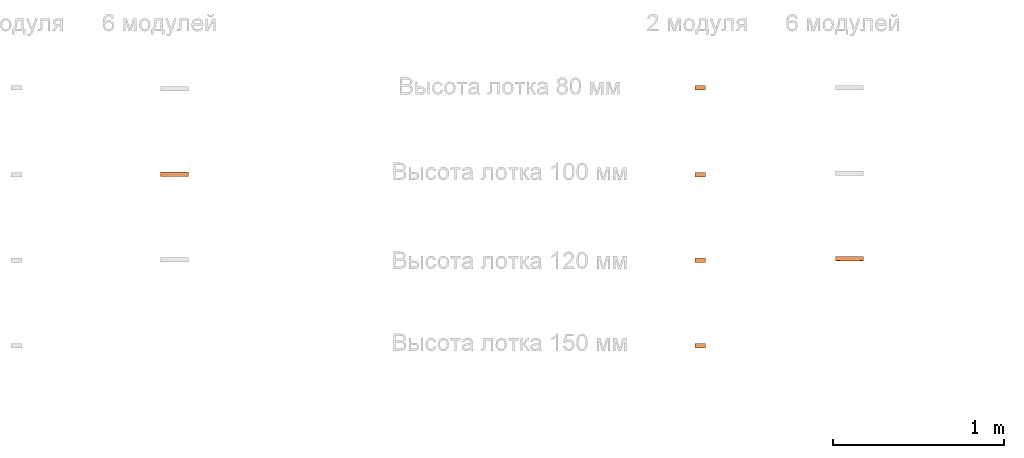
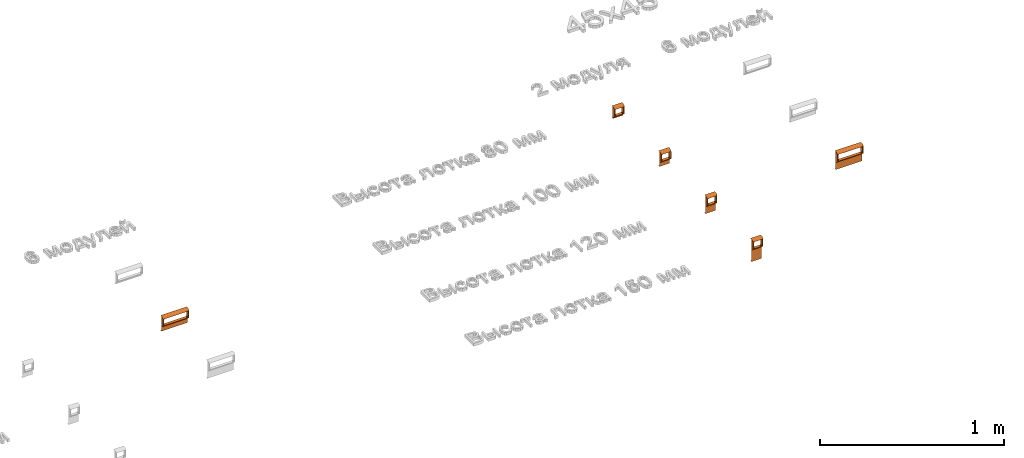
# One storey, part 70 of 71: 6 proxies.
"""IFC2X3 building model written with IfcOpenShell, lengths in millimetres."""

from ifc_helpers import new_model, entity, si_unit, converted_unit, derived_unit, direction, frame, origin, place, context, subcontext, project, spatial, faceted_brep, source, transform, mapped, material, type_object, type_shapes, element, save


model = new_model("IFC2X3")

# Units and contexts
model_context = context("Model", 3, precision=0.01, world=origin(), true_north=direction((6.12303176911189e-17, 1.0)))
body_context = subcontext(model_context, "Body", "Model", "MODEL_VIEW")
ifc_project = project(units=[si_unit("LENGTHUNIT", "METRE", prefix="MILLI"), si_unit("AREAUNIT", "SQUARE_METRE"), si_unit("VOLUMEUNIT", "CUBIC_METRE"), converted_unit("PLANEANGLEUNIT", "DEGREE", entity("IfcRatioMeasure", 0.0174532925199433), si_unit("PLANEANGLEUNIT", "RADIAN"), dimensions=[0, 0, 0, 0, 0, 0, 0]), si_unit("MASSUNIT", "GRAM", prefix="KILO"), derived_unit("MASSDENSITYUNIT", [(si_unit("MASSUNIT", "GRAM", prefix="KILO"), 1), (si_unit("LENGTHUNIT", "METRE"), -3)]), si_unit("TIMEUNIT", "SECOND"), si_unit("FREQUENCYUNIT", "HERTZ"), si_unit("THERMODYNAMICTEMPERATUREUNIT", "DEGREE_CELSIUS"), derived_unit("THERMALTRANSMITTANCEUNIT", [(si_unit("MASSUNIT", "GRAM", prefix="KILO"), 1), (si_unit("THERMODYNAMICTEMPERATUREUNIT", "KELVIN"), -1), (si_unit("TIMEUNIT", "SECOND"), -3)]), derived_unit("VOLUMETRICFLOWRATEUNIT", [(si_unit("LENGTHUNIT", "METRE"), 3), (si_unit("TIMEUNIT", "SECOND"), -1)]), si_unit("ELECTRICCURRENTUNIT", "AMPERE"), si_unit("ELECTRICVOLTAGEUNIT", "VOLT"), si_unit("POWERUNIT", "WATT"), si_unit("FORCEUNIT", "NEWTON", prefix="KILO"), si_unit("ILLUMINANCEUNIT", "LUX"), si_unit("LUMINOUSFLUXUNIT", "LUMEN"), si_unit("LUMINOUSINTENSITYUNIT", "CANDELA"), derived_unit("USERDEFINED", [(si_unit("MASSUNIT", "GRAM", prefix="KILO"), -1), (si_unit("LENGTHUNIT", "METRE"), -2), (si_unit("TIMEUNIT", "SECOND"), 3), (si_unit("LUMINOUSFLUXUNIT", "LUMEN"), 1)]), derived_unit("LINEARVELOCITYUNIT", [(si_unit("LENGTHUNIT", "METRE"), 1), (si_unit("TIMEUNIT", "SECOND"), -1)]), si_unit("PRESSUREUNIT", "PASCAL"), derived_unit("USERDEFINED", [(si_unit("LENGTHUNIT", "METRE"), -2), (si_unit("MASSUNIT", "GRAM", prefix="KILO"), 1), (si_unit("TIMEUNIT", "SECOND"), -2)])], contexts=[model_context])

# Site, building, storey
site_placement = place(None, origin())
site = spatial("IfcSite", under=ifc_project, at=site_placement, Name="Default", CompositionType="ELEMENT")
building_placement = place(site_placement, origin())
building = spatial("IfcBuilding", under=site, at=building_placement, Name="Наименование здания", CompositionType="ELEMENT")
storey_placement = place(building_placement, origin())
storey = spatial("IfcBuildingStorey", under=building, at=storey_placement, Name="Этаж 01", CompositionType="ELEMENT", Elevation=0.0)

# Proxies
ifc_material = material(Name="DKC_Пластик_Белый")
building_element_proxy_type_1 = type_object("IfcBuildingElementProxyType", Name="Серия \"Brava\"", PredefinedType="NOTDEFINED", material=ifc_material)
shared_shape_1 = source(origin(), body_context, "Body", "Brep", [
    faceted_brep([(-73.8192492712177, -18.0, 36.8192492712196), (-70.9686648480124, -18.0, 38.0), (-82.0, -18.0, 38.0), (-82.0, -18.0, -5.0), (-70.9686648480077, -18.0, -5.0), (-73.819249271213, -18.0, -3.81924927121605), (-75.0, -18.0, -0.968664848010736), (-75.0, -18.0, 33.9686648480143), (82.0, -18.0, 38.0), (70.96866484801, -18.0, 38.0), (73.8192492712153, -18.0, 36.8192492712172), (75.0, -18.0, 33.9686648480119), (75.0, -18.0, -0.968664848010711), (73.8192492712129, -18.0, -3.819249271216), (70.9686648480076, -18.0, -5.0), (82.0, -18.0, -5.0), (82.0, -1.0, -50.0), (82.0, 8.40000000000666, -50.0), (82.0, 8.40000000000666, -49.0), (82.0, 0.0, -49.0), (82.0, 0.0, 49.0), (82.0, 8.40000000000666, 49.0), (82.0, 8.40000000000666, 50.0), (82.0, -1.0, 50.0), (82.0, -5.39126188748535, 49.4574348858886), (82.0, -9.51840787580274, 47.8623725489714), (82.0, -13.133207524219, 45.3107492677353), (82.0, -16.018245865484, 41.9560344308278), (82.0, -16.0182458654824, -8.9560344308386), (82.0, -13.133207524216, -12.3107492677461), (82.0, -9.51840787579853, -14.8623725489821), (82.0, -5.39126188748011, -16.4574348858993), (82.0, -1.0, -17.0), (-82.0, -1.0, 50.0), (-82.0, 8.40000000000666, 50.0), (-82.0, 8.40000000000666, 49.0), (-82.0, 0.0, 49.0), (-82.0, 0.0, -49.0), (-82.0, 8.40000000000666, -49.0), (-82.0, 8.40000000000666, -50.0), (-82.0, -1.0, -50.0), (-82.0, -1.0, -17.0), (-82.0, -5.39126188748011, -16.4574348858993), (-82.0, -9.51840787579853, -14.8623725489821), (-82.0, -13.133207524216, -12.3107492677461), (-82.0, -16.0182458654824, -8.9560344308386), (-82.0, -16.018245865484, 41.9560344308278), (-82.0, -13.133207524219, 45.3107492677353), (-82.0, -9.51840787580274, 47.8623725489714), (-82.0, -5.39126188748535, 49.4574348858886), (-7.84410285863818, -1.0, 50.0), (7.84408283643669, -1.0, -17.0), (75.0, 0.0, -0.968664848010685), (73.8192492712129, 0.0, -3.819249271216), (70.9686648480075, 0.0, -5.0), (-70.9686648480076, 0.0, -5.0), (-73.819249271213, 0.0, -3.81924927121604), (-75.0, 0.0, -0.968664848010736), (-75.0, 0.0, 33.9686648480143), (-73.8192492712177, 0.0, 36.8192492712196), (-70.9686648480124, 0.0, 38.0), (75.0, 0.0, 33.9686648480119), (73.8192492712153, 0.0, 36.8192492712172), (70.96866484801, 0.0, 38.0), (-1.05664262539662e-07, -7.50391799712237, 48.7869038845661), (10.4878486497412, -16.6040193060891, 41.0146194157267), (0.0, -18.0, 38.0), (-8.03406364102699e-08, -11.4043260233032, 46.6977951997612), (6.74915888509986e-08, -14.6789576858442, 43.7221699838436), (-10.70410463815, -4.32349317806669, 49.6912442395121), (-10.4878486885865, -16.6040193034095, -8.01461942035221), (0.0, -18.0, -5.0), (-2.78578905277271e-08, -14.6789576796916, -10.7221699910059), (2.4966060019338e-08, -11.4043260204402, -13.6977952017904), (10.7041051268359, -4.32349317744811, -16.6912442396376), (-2.08968314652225e-08, -7.50391799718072, -15.7869038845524)], [[[0, 1, 2, 3, 4, 5, 6, 7]], [[8, 9, 10, 11, 12, 13, 14, 15]], [[16, 17, 18, 19, 20, 21, 22, 23, 24, 25, 26, 27, 8, 15, 28, 29, 30, 31, 32]], [[33, 34, 35, 36, 37, 38, 39, 40, 41, 42, 43, 44, 45, 3, 2, 46, 47, 48, 49]], [[22, 21, 35, 34]], [[18, 17, 39, 38]], [[23, 22, 34, 33, 50]], [[16, 32, 51, 41, 40]], [[17, 16, 40, 39]], [[19, 18, 38, 37]], [[19, 52, 20]], [[52, 19, 53]], [[54, 53, 19]], [[19, 37, 54]], [[55, 54, 37]], [[56, 55, 37]], [[37, 57, 56]], [[57, 37, 36]], [[36, 58, 57]], [[58, 36, 59]], [[60, 59, 36]], [[60, 36, 20]], [[61, 20, 52]], [[20, 61, 62]], [[62, 63, 20]], [[20, 63, 60]], [[21, 20, 36, 35]], [[64, 49, 48]], [[9, 65, 1, 66]], [[67, 48, 47]], [[67, 47, 68]], [[69, 49, 64]], [[23, 69, 24]], [[68, 26, 67]], [[25, 24, 64]], [[64, 67, 25]], [[26, 25, 67]], [[46, 2, 1]], [[9, 8, 27]], [[33, 69, 23, 50]], [[64, 48, 67]], [[27, 65, 9]], [[26, 68, 27]], [[68, 65, 27]], [[65, 46, 1]], [[24, 69, 64]], [[68, 47, 46]], [[46, 65, 68]], [[33, 49, 69]], [[4, 3, 45]], [[28, 15, 14]], [[4, 70, 14, 71]], [[72, 45, 44]], [[72, 44, 73]], [[70, 45, 72]], [[74, 42, 41]], [[45, 70, 4]], [[29, 28, 72]], [[75, 43, 42]], [[32, 74, 41, 51]], [[42, 74, 75]], [[74, 32, 31]], [[29, 73, 30]], [[75, 73, 43]], [[75, 31, 30]], [[74, 31, 75]], [[73, 29, 72]], [[70, 28, 14]], [[73, 44, 43]], [[28, 70, 72]], [[73, 75, 30]], [[63, 9, 66, 1, 60]], [[0, 59, 60, 1]], [[7, 58, 59, 0]], [[58, 7, 6, 57]], [[5, 56, 57, 6]], [[4, 55, 56, 5]], [[55, 4, 71, 14, 54]], [[13, 53, 54, 14]], [[12, 52, 53, 13]], [[61, 52, 12, 11]], [[10, 62, 61, 11]], [[9, 63, 62, 10]]]),
])
type_shapes(building_element_proxy_type_1, [shared_shape_1])
proxy_1_placement = place(storey_placement, frame((8596.33711785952, -12429.6171991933, 0.0)))
element("IfcBuildingElementProxy", 1, at=proxy_1_placement, inside=storey, type_object=building_element_proxy_type_1, material=ifc_material, Name="КНС_РамкаСуппорт_ILC_DKC:Серия \"Brava\"", ObjectType="Серия \"Brava\"", context=body_context, shape_type="MappedRepresentation", body=[
    mapped(shared_shape_1, transform((0.0, 0.0, 0.0), scale=1.0)),
])
building_element_proxy_type_2 = type_object("IfcBuildingElementProxyType", Name="45х45", PredefinedType="NOTDEFINED", material=ifc_material)
shared_shape_2 = source(origin(), body_context, "Body", "Brep", [
    faceted_brep([(-23.8192492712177, -18.0, 36.8192492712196), (-20.9686648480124, -18.0, 38.0), (-32.0, -18.0, 38.0), (-32.0, -18.0, -7.0), (-20.9686648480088, -18.0, -7.0), (-23.8192492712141, -18.0, -5.81924927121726), (-25.0, -18.0, -2.96866484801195), (-25.0, -18.0, 33.9686648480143), (32.0, -18.0, 38.0), (20.96866484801, -18.0, 38.0), (23.8192492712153, -18.0, 36.8192492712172), (25.0, -18.0, 33.9686648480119), (25.0, -18.0, -2.96866484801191), (23.8192492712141, -18.0, -5.8192492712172), (20.9686648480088, -18.0, -7.0), (32.0, -18.0, -7.0), (32.0, -1.0, -50.0), (32.0, 8.40000000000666, -50.0), (32.0, 8.40000000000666, -49.0), (32.0, 0.0, -49.0), (32.0, 0.0, 49.0), (32.0, 8.40000000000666, 49.0), (32.0, 8.40000000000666, 50.0), (32.0, -1.0, 50.0), (32.0, -5.39126188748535, 49.4574348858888), (32.0, -9.51840787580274, 47.8623725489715), (32.0, -13.133207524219, 45.3107492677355), (32.0, -16.018245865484, 41.956034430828), (32.0, -16.0182458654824, -10.9560344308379), (32.0, -13.133207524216, -14.3107492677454), (32.0, -9.51840787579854, -16.8623725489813), (32.0, -5.39126188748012, -18.4574348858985), (32.0, -1.0, -19.0), (-32.0, -1.0, 50.0), (-32.0, 8.40000000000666, 50.0), (-32.0, 8.40000000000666, 49.0), (-32.0, 0.0, 49.0), (-32.0, 0.0, -49.0), (-32.0, 8.40000000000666, -49.0), (-32.0, 8.40000000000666, -50.0), (-32.0, -1.0, -50.0), (-32.0, -1.0, -19.0), (-32.0, -5.39126188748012, -18.4574348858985), (-32.0, -9.51840787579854, -16.8623725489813), (-32.0, -13.133207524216, -14.3107492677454), (-32.0, -16.0182458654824, -10.9560344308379), (-32.0, -16.018245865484, 41.956034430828), (-32.0, -13.133207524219, 45.3107492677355), (-32.0, -9.51840787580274, 47.8623725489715), (-32.0, -5.39126188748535, 49.4574348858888), (25.0, 0.0, -2.96866484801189), (23.819249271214, 0.0, -5.81924927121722), (20.9686648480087, 0.0, -7.0), (-20.9686648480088, 0.0, -7.0), (-23.8192492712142, 0.0, -5.81924927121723), (-25.0, 0.0, -2.96866484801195), (-25.0, 0.0, 33.9686648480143), (-23.8192492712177, 0.0, 36.8192492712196), (-20.9686648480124, 0.0, 38.0), (25.0, 0.0, 33.968664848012), (23.8192492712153, 0.0, 36.8192492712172), (20.96866484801, 0.0, 38.0)], [[[0, 1, 2, 3, 4, 5, 6, 7]], [[8, 9, 10, 11, 12, 13, 14, 15]], [[16, 17, 18, 19, 20, 21, 22, 23, 24, 25, 26, 27, 8, 15, 28, 29, 30, 31, 32]], [[33, 34, 35, 36, 37, 38, 39, 40, 41, 42, 43, 44, 45, 3, 2, 46, 47, 48, 49]], [[22, 21, 35, 34]], [[18, 17, 39, 38]], [[23, 22, 34, 33]], [[16, 32, 41, 40]], [[17, 16, 40, 39]], [[19, 18, 38, 37]], [[19, 50, 20]], [[50, 19, 51]], [[52, 51, 19]], [[19, 53, 52]], [[53, 19, 37]], [[54, 53, 37]], [[37, 55, 54]], [[55, 37, 36]], [[36, 56, 55]], [[56, 36, 57]], [[58, 57, 36]], [[58, 36, 20]], [[59, 20, 50]], [[20, 59, 60]], [[60, 61, 20]], [[20, 61, 58]], [[21, 20, 36, 35]], [[24, 49, 48, 25]], [[25, 48, 47, 26]], [[33, 49, 24, 23]], [[46, 2, 1, 9, 8, 27]], [[26, 47, 46, 27]], [[4, 3, 45, 28, 15, 14]], [[28, 45, 44, 29]], [[30, 43, 42, 31]], [[31, 42, 41, 32]], [[29, 44, 43, 30]], [[58, 61, 9, 1]], [[0, 57, 58, 1]], [[7, 56, 57, 0]], [[55, 56, 7, 6]], [[5, 54, 55, 6]], [[4, 53, 54, 5]], [[53, 4, 14, 52]], [[13, 51, 52, 14]], [[12, 50, 51, 13]], [[50, 12, 11, 59]], [[10, 60, 59, 11]], [[9, 61, 60, 10]]]),
])
type_shapes(building_element_proxy_type_2, [shared_shape_2])
proxy_2_placement = place(storey_placement, frame((11672.4014296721, -12431.8358834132, 0.0)))
element("IfcBuildingElementProxy", 2, at=proxy_2_placement, inside=storey, type_object=building_element_proxy_type_2, material=ifc_material, Name="КНС_РамкаСуппорт_ILC_DKC:45х45", ObjectType="45х45", context=body_context, shape_type="MappedRepresentation", body=[
    mapped(shared_shape_2, transform((0.0, 0.0, 0.0), scale=1.0)),
])
building_element_proxy_type_3 = type_object("IfcBuildingElementProxyType", Name="45х45", PredefinedType="NOTDEFINED", material=ifc_material)
shared_shape_3 = source(origin(), body_context, "Body", "Brep", [
    faceted_brep([(-23.8192492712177, -18.0, 46.8192492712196), (-20.9686648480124, -18.0, 48.0), (-32.0, -18.0, 48.0), (-32.0, -18.0, 3.0), (-20.9686648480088, -18.0, 3.0), (-23.8192492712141, -18.0, 4.18075072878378), (-25.0, -18.0, 7.03133515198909), (-25.0, -18.0, 43.9686648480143), (32.0, -18.0, 48.0), (20.96866484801, -18.0, 48.0), (23.8192492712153, -18.0, 46.8192492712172), (25.0, -18.0, 43.9686648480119), (25.0, -18.0, 7.03133515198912), (23.8192492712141, -18.0, 4.18075072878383), (20.9686648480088, -18.0, 3.0), (32.0, -18.0, 3.0), (32.0, -1.0, -60.0), (32.0, 8.40000000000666, -60.0), (32.0, 8.40000000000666, -59.0), (32.0, 0.0, -59.0), (32.0, 0.0, 59.0), (32.0, 8.40000000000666, 59.0), (32.0, 8.40000000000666, 60.0), (32.0, -1.0, 60.0), (32.0, -5.39126188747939, 59.4574348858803), (32.0, -9.51840787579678, 57.862372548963), (32.0, -13.1332075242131, 55.310749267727), (32.0, -16.018245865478, 51.9560344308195), (32.0, -16.0182458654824, -0.956034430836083), (32.0, -13.133207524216, -4.3107492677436), (32.0, -9.51840787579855, -6.86237254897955), (32.0, -5.39126188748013, -8.45743488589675), (32.0, -1.0, -9.0), (-32.0, -1.0, 60.0), (-32.0, 8.40000000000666, 60.0), (-32.0, 8.40000000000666, 59.0), (-32.0, 0.0, 59.0), (-32.0, 0.0, -59.0), (-32.0, 8.40000000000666, -59.0), (-32.0, 8.40000000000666, -60.0), (-32.0, -1.0, -60.0), (-32.0, -1.0, -9.0), (-32.0, -5.39126188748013, -8.45743488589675), (-32.0, -9.51840787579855, -6.86237254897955), (-32.0, -13.133207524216, -4.3107492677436), (-32.0, -16.0182458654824, -0.956034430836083), (-32.0, -16.018245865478, 51.9560344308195), (-32.0, -13.1332075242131, 55.310749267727), (-32.0, -9.51840787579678, 57.862372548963), (-32.0, -5.39126188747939, 59.4574348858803), (25.0, 0.0, 7.03133515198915), (23.819249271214, 0.0, 4.18075072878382), (20.9686648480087, 0.0, 3.0), (-20.9686648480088, 0.0, 3.0), (-23.8192492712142, 0.0, 4.1807507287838), (-25.0, 0.0, 7.03133515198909), (-25.0, 0.0, 43.9686648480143), (-23.8192492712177, 0.0, 46.8192492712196), (-20.9686648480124, 0.0, 48.0), (25.0, 0.0, 43.9686648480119), (23.8192492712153, 0.0, 46.8192492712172), (20.96866484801, 0.0, 48.0)], [[[0, 1, 2, 3, 4, 5, 6, 7]], [[8, 9, 10, 11, 12, 13, 14, 15]], [[16, 17, 18, 19, 20, 21, 22, 23, 24, 25, 26, 27, 8, 15, 28, 29, 30, 31, 32]], [[33, 34, 35, 36, 37, 38, 39, 40, 41, 42, 43, 44, 45, 3, 2, 46, 47, 48, 49]], [[22, 21, 35, 34]], [[18, 17, 39, 38]], [[23, 22, 34, 33]], [[16, 32, 41, 40]], [[17, 16, 40, 39]], [[19, 18, 38, 37]], [[19, 50, 20]], [[50, 19, 51]], [[52, 51, 19]], [[19, 37, 52]], [[53, 52, 37]], [[54, 53, 37]], [[37, 55, 54]], [[55, 37, 36]], [[36, 56, 55]], [[56, 36, 57]], [[58, 57, 36]], [[58, 36, 20]], [[59, 20, 50]], [[20, 59, 60]], [[60, 61, 20]], [[20, 61, 58]], [[21, 20, 36, 35]], [[24, 49, 48, 25]], [[25, 48, 47, 26]], [[33, 49, 24, 23]], [[46, 2, 1, 9, 8, 27]], [[26, 47, 46, 27]], [[4, 3, 45, 28, 15, 14]], [[28, 45, 44, 29]], [[30, 43, 42, 31]], [[31, 42, 41, 32]], [[29, 44, 43, 30]], [[58, 61, 9, 1]], [[0, 57, 58, 1]], [[7, 56, 57, 0]], [[56, 7, 6, 55]], [[5, 54, 55, 6]], [[4, 53, 54, 5]], [[53, 4, 14, 52]], [[13, 51, 52, 14]], [[12, 50, 51, 13]], [[59, 50, 12, 11]], [[10, 60, 59, 11]], [[9, 61, 60, 10]]]),
])
type_shapes(building_element_proxy_type_3, [shared_shape_3])
proxy_3_placement = place(storey_placement, frame((11672.4014296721, -12931.8358834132, 0.0)))
element("IfcBuildingElementProxy", 3, at=proxy_3_placement, inside=storey, type_object=building_element_proxy_type_3, material=ifc_material, Name="КНС_РамкаСуппорт_ILC_DKC:45х45", ObjectType="45х45", context=body_context, shape_type="MappedRepresentation", body=[
    mapped(shared_shape_3, transform((0.0, 0.0, 0.0), scale=1.0)),
])
building_element_proxy_type_4 = type_object("IfcBuildingElementProxyType", Name="45х45", PredefinedType="NOTDEFINED", material=ifc_material)
shared_shape_4 = source(origin(), body_context, "Body", "Brep", [
    faceted_brep([(-23.8192492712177, -18.0, 61.8192492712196), (-20.9686648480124, -18.0, 63.0), (-32.0, -18.0, 63.0), (-32.0, -18.0, 18.0), (-20.9686648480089, -18.0, 18.0), (-23.8192492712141, -18.0, 19.1807507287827), (-25.0, -18.0, 22.031335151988), (-25.0, -18.0, 58.9686648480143), (32.0, -18.0, 63.0), (20.96866484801, -18.0, 63.0), (23.8192492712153, -18.0, 61.8192492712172), (25.0, -18.0, 58.9686648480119), (25.0, -18.0, 22.0313351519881), (23.8192492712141, -18.0, 19.1807507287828), (20.9686648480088, -18.0, 18.0), (32.0, -18.0, 18.0), (32.0, -1.0, -75.0), (32.0, 8.40000000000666, -75.0), (32.0, 8.40000000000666, -74.0), (32.0, 0.0, -74.0), (32.0, 0.0, 74.0), (32.0, 8.40000000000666, 74.0), (32.0, 8.40000000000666, 75.0), (32.0, -1.0, 75.0), (32.0, -5.39126188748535, 74.4574348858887), (32.0, -9.51840787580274, 72.8623725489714), (32.0, -13.133207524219, 70.3107492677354), (32.0, -16.018245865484, 66.9560344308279), (32.0, -16.0182458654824, 14.0439655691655), (32.0, -13.133207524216, 10.689250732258), (32.0, -9.51840787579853, 8.13762745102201), (32.0, -5.39126188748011, 6.54256511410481), (32.0, -1.0, 6.0), (-32.0, -1.0, 75.0), (-32.0, 8.40000000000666, 75.0), (-32.0, 8.40000000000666, 74.0), (-32.0, 0.0, 74.0), (-32.0, 0.0, -74.0), (-32.0, 8.40000000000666, -74.0), (-32.0, 8.40000000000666, -75.0), (-32.0, -1.0, -75.0), (-32.0, -1.0, 6.0), (-32.0, -5.39126188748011, 6.54256511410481), (-32.0, -9.51840787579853, 8.13762745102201), (-32.0, -13.133207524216, 10.689250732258), (-32.0, -16.0182458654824, 14.0439655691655), (-32.0, -16.018245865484, 66.9560344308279), (-32.0, -13.133207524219, 70.3107492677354), (-32.0, -9.51840787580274, 72.8623725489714), (-32.0, -5.39126188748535, 74.4574348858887), (25.0, 0.0, 22.0313351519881), (23.819249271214, 0.0, 19.1807507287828), (20.9686648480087, 0.0, 18.0), (-20.9686648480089, 0.0, 18.0), (-23.8192492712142, 0.0, 19.1807507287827), (-25.0, 0.0, 22.031335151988), (-25.0, 0.0, 58.9686648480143), (-23.8192492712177, 0.0, 61.8192492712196), (-20.9686648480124, 0.0, 63.0), (25.0, 0.0, 58.9686648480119), (23.8192492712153, 0.0, 61.8192492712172), (20.96866484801, 0.0, 63.0)], [[[0, 1, 2, 3, 4, 5, 6, 7]], [[8, 9, 10, 11, 12, 13, 14, 15]], [[16, 17, 18, 19, 20, 21, 22, 23, 24, 25, 26, 27, 8, 15, 28, 29, 30, 31, 32]], [[33, 34, 35, 36, 37, 38, 39, 40, 41, 42, 43, 44, 45, 3, 2, 46, 47, 48, 49]], [[22, 21, 35, 34]], [[18, 17, 39, 38]], [[23, 22, 34, 33]], [[16, 32, 41, 40]], [[17, 16, 40, 39]], [[19, 18, 38, 37]], [[19, 50, 20]], [[50, 19, 51]], [[52, 51, 19]], [[19, 37, 52]], [[53, 52, 37]], [[54, 53, 37]], [[37, 55, 54]], [[55, 37, 36]], [[36, 56, 55]], [[56, 36, 57]], [[58, 57, 36]], [[58, 36, 20]], [[59, 20, 50]], [[20, 59, 60]], [[60, 61, 20]], [[20, 61, 58]], [[21, 20, 36, 35]], [[24, 49, 48, 25]], [[25, 48, 47, 26]], [[33, 49, 24, 23]], [[46, 2, 1, 9, 8, 27]], [[26, 47, 46, 27]], [[4, 3, 45, 28, 15, 14]], [[28, 45, 44, 29]], [[30, 43, 42, 31]], [[31, 42, 41, 32]], [[29, 44, 43, 30]], [[58, 61, 9, 1]], [[0, 57, 58, 1]], [[7, 56, 57, 0]], [[55, 56, 7, 6]], [[5, 54, 55, 6]], [[4, 53, 54, 5]], [[53, 4, 14, 52]], [[13, 51, 52, 14]], [[12, 50, 51, 13]], [[59, 50, 12, 11]], [[10, 60, 59, 11]], [[9, 61, 60, 10]]]),
])
type_shapes(building_element_proxy_type_4, [shared_shape_4])
proxy_4_placement = place(storey_placement, frame((11672.4014296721, -13431.8358834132, 0.0)))
element("IfcBuildingElementProxy", 4, at=proxy_4_placement, inside=storey, type_object=building_element_proxy_type_4, material=ifc_material, Name="КНС_РамкаСуппорт_ILC_DKC:45х45", ObjectType="45х45", context=body_context, shape_type="MappedRepresentation", body=[
    mapped(shared_shape_4, transform((0.0, 0.0, 0.0), scale=1.0)),
])
building_element_proxy_type_5 = type_object("IfcBuildingElementProxyType", Name="45х45", PredefinedType="NOTDEFINED", material=ifc_material)
shared_shape_5 = source(origin(), body_context, "Body", "Brep", [
    faceted_brep([(-73.8192492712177, -18.0, 46.8192492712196), (-70.9686648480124, -18.0, 48.0), (-82.0, -18.0, 48.0), (-82.0, -18.0, 3.0), (-70.9686648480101, -18.0, 3.0), (-73.8192492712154, -18.0, 4.18075072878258), (-75.0, -18.0, 7.03133515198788), (-75.0, -18.0, 43.9686648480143), (82.0, -18.0, 48.0), (70.9686648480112, -18.0, 48.0), (73.8192492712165, -18.0, 46.8192492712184), (75.0, -18.0, 43.9686648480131), (75.0, -18.0, 7.03133515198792), (73.8192492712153, -18.0, 4.18075072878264), (70.96866484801, -18.0, 3.0), (82.0, -18.0, 3.0), (82.0, -1.0, -60.0), (82.0, 8.40000000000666, -60.0), (82.0, 8.40000000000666, -59.0), (82.0, 0.0, -59.0), (82.0, 0.0, 59.0), (82.0, 8.40000000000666, 59.0), (82.0, 8.40000000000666, 60.0), (82.0, -1.0, 60.0), (82.0, -5.39126188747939, 59.4574348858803), (82.0, -9.51840787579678, 57.862372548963), (82.0, -13.1332075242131, 55.310749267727), (82.0, -16.018245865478, 51.9560344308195), (82.0, -16.0182458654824, -0.956034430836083), (82.0, -13.133207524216, -4.3107492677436), (82.0, -9.51840787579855, -6.86237254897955), (82.0, -5.39126188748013, -8.45743488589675), (82.0, -1.0, -9.0), (-82.0, -1.0, 60.0), (-82.0, 8.40000000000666, 60.0), (-82.0, 8.40000000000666, 59.0), (-82.0, 0.0, 59.0), (-82.0, 0.0, -59.0), (-82.0, 8.40000000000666, -59.0), (-82.0, 8.40000000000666, -60.0), (-82.0, -1.0, -60.0), (-82.0, -1.0, -9.0), (-82.0, -5.39126188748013, -8.45743488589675), (-82.0, -9.51840787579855, -6.86237254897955), (-82.0, -13.133207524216, -4.3107492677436), (-82.0, -16.0182458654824, -0.956034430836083), (-82.0, -16.018245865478, 51.9560344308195), (-82.0, -13.1332075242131, 55.310749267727), (-82.0, -9.51840787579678, 57.862372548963), (-82.0, -5.39126188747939, 59.4574348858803), (-7.84403318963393, -1.0, 60.0), (7.84408283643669, -1.0, -9.0), (75.0, 0.0, 7.03133515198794), (73.8192492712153, 0.0, 4.18075072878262), (70.9686648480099, 0.0, 3.0), (-70.96866484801, 0.0, 3.0), (-73.8192492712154, 0.0, 4.18075072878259), (-75.0, 0.0, 7.03133515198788), (-75.0, 0.0, 43.9686648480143), (-73.8192492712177, 0.0, 46.8192492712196), (-70.9686648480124, 0.0, 48.0), (75.0, 0.0, 43.9686648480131), (73.8192492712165, 0.0, 46.8192492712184), (70.9686648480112, 0.0, 48.0), (-1.05664262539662e-07, -7.50391799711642, 58.7869038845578), (10.4878486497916, -16.6040193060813, 51.0146194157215), (0.0, -18.0, 48.0), (-8.03406533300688e-08, -11.4043260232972, 56.6977951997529), (6.74916057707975e-08, -14.6789576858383, 53.7221699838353), (-10.7041046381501, -4.32349317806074, 59.6912442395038), (-10.487848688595, -16.6040193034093, -0.0146194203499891), (0.0, -18.0, 3.0), (-2.7857907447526e-08, -14.6789576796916, -2.72216999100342), (2.4966060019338e-08, -11.4043260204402, -5.69779520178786), (10.7041051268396, -4.32349317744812, -8.69124423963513), (-2.08968483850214e-08, -7.50391799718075, -7.78690388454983)], [[[0, 1, 2, 3, 4, 5, 6, 7]], [[8, 9, 10, 11, 12, 13, 14, 15]], [[16, 17, 18, 19, 20, 21, 22, 23, 24, 25, 26, 27, 8, 15, 28, 29, 30, 31, 32]], [[33, 34, 35, 36, 37, 38, 39, 40, 41, 42, 43, 44, 45, 3, 2, 46, 47, 48, 49]], [[22, 21, 35, 34]], [[18, 17, 39, 38]], [[22, 34, 33, 50, 23]], [[16, 32, 51, 41, 40]], [[17, 16, 40, 39]], [[19, 18, 38, 37]], [[19, 52, 20]], [[52, 19, 53]], [[54, 53, 19]], [[19, 37, 54]], [[55, 54, 37]], [[56, 55, 37]], [[37, 57, 56]], [[57, 37, 36]], [[36, 58, 57]], [[58, 36, 59]], [[60, 59, 36]], [[60, 36, 20]], [[61, 20, 52]], [[20, 61, 62]], [[62, 63, 20]], [[20, 63, 60]], [[21, 20, 36, 35]], [[64, 49, 48]], [[9, 65, 1, 66]], [[67, 48, 47]], [[67, 47, 68]], [[69, 49, 64]], [[23, 69, 24]], [[68, 26, 67]], [[25, 24, 64]], [[64, 67, 25]], [[26, 25, 67]], [[46, 2, 1]], [[9, 8, 27]], [[33, 69, 23, 50]], [[64, 48, 67]], [[27, 65, 9]], [[26, 68, 27]], [[68, 65, 27]], [[65, 46, 1]], [[24, 69, 64]], [[68, 47, 46]], [[46, 65, 68]], [[33, 49, 69]], [[4, 3, 45]], [[28, 15, 14]], [[4, 70, 14, 71]], [[72, 45, 44]], [[72, 44, 73]], [[70, 45, 72]], [[74, 42, 41]], [[45, 70, 4]], [[29, 28, 72]], [[75, 43, 42]], [[32, 74, 41, 51]], [[42, 74, 75]], [[74, 32, 31]], [[29, 73, 30]], [[75, 73, 43]], [[75, 31, 30]], [[74, 31, 75]], [[73, 29, 72]], [[70, 28, 14]], [[73, 44, 43]], [[28, 70, 72]], [[73, 75, 30]], [[60, 63, 9, 66, 1]], [[0, 59, 60, 1]], [[7, 58, 59, 0]], [[58, 7, 6, 57]], [[5, 56, 57, 6]], [[4, 55, 56, 5]], [[55, 4, 71, 14, 54]], [[13, 53, 54, 14]], [[12, 52, 53, 13]], [[52, 12, 11, 61]], [[10, 62, 61, 11]], [[9, 63, 62, 10]]]),
])
type_shapes(building_element_proxy_type_5, [shared_shape_5])
proxy_5_placement = place(storey_placement, frame((12545.2713454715, -12923.4358834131, 0.0)))
element("IfcBuildingElementProxy", 5, at=proxy_5_placement, inside=storey, type_object=building_element_proxy_type_5, material=ifc_material, Name="КНС_РамкаСуппорт_ILC_DKC:45х45", ObjectType="45х45", context=body_context, shape_type="MappedRepresentation", body=[
    mapped(shared_shape_5, transform((0.0, 0.0, 0.0), scale=1.0)),
])
building_element_proxy_type_6 = type_object("IfcBuildingElementProxyType", Name="45х45", PredefinedType="NOTDEFINED", material=ifc_material)
shared_shape_6 = source(origin(), body_context, "Body", "Brep", [
    faceted_brep([(-23.8192492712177, -18.0, 26.8192492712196), (-20.9686648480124, -18.0, 28.0), (-32.0, -18.0, 28.0), (-32.0, -18.0, -17.0), (-20.9686648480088, -18.0, -17.0), (-23.8192492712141, -18.0, -15.8192492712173), (-25.0, -18.0, -12.9686648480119), (-25.0, -18.0, 23.9686648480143), (32.0, -18.0, 28.0), (20.96866484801, -18.0, 28.0), (23.8192492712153, -18.0, 26.8192492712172), (25.0, -18.0, 23.9686648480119), (25.0, -18.0, -12.9686648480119), (23.8192492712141, -18.0, -15.8192492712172), (20.9686648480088, -18.0, -17.0), (32.0, -18.0, -17.0), (32.0, -1.0, -40.0), (32.0, 8.40000000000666, -40.0), (32.0, 8.40000000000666, -39.0), (32.0, 0.0, -39.0), (32.0, 0.0, 39.0), (32.0, 8.40000000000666, 39.0), (32.0, 8.40000000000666, 40.0), (32.0, -1.0, 40.0), (32.0, -5.39126188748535, 39.4574348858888), (32.0, -9.51840787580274, 37.8623725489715), (32.0, -13.133207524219, 35.3107492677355), (32.0, -16.018245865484, 31.956034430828), (32.0, -16.0182458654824, -20.9560344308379), (32.0, -13.133207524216, -24.3107492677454), (32.0, -9.51840787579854, -26.8623725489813), (32.0, -5.39126188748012, -28.4574348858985), (32.0, -1.0, -29.0), (-32.0, -1.0, 40.0), (-32.0, 8.40000000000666, 40.0), (-32.0, 8.40000000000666, 39.0), (-32.0, 0.0, 39.0), (-32.0, 0.0, -39.0), (-32.0, 8.40000000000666, -39.0), (-32.0, 8.40000000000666, -40.0), (-32.0, -1.0, -40.0), (-32.0, -1.0, -29.0), (-32.0, -5.39126188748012, -28.4574348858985), (-32.0, -9.51840787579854, -26.8623725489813), (-32.0, -13.133207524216, -24.3107492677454), (-32.0, -16.0182458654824, -20.9560344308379), (-32.0, -16.018245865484, 31.956034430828), (-32.0, -13.133207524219, 35.3107492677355), (-32.0, -9.51840787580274, 37.8623725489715), (-32.0, -5.39126188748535, 39.4574348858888), (25.0, 0.0, -12.9686648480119), (23.819249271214, 0.0, -15.8192492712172), (20.9686648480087, 0.0, -17.0), (-20.9686648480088, 0.0, -17.0), (-23.8192492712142, 0.0, -15.8192492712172), (-25.0, 0.0, -12.9686648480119), (-25.0, 0.0, 23.9686648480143), (-23.8192492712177, 0.0, 26.8192492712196), (-20.9686648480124, 0.0, 28.0), (25.0, 0.0, 23.9686648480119), (23.8192492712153, 0.0, 26.8192492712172), (20.96866484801, 0.0, 28.0)], [[[0, 1, 2, 3, 4, 5, 6, 7]], [[8, 9, 10, 11, 12, 13, 14, 15]], [[16, 17, 18, 19, 20, 21, 22, 23, 24, 25, 26, 27, 8, 15, 28, 29, 30, 31, 32]], [[33, 34, 35, 36, 37, 38, 39, 40, 41, 42, 43, 44, 45, 3, 2, 46, 47, 48, 49]], [[22, 21, 35, 34]], [[18, 17, 39, 38]], [[23, 22, 34, 33]], [[16, 32, 41, 40]], [[17, 16, 40, 39]], [[19, 18, 38, 37]], [[19, 50, 20]], [[50, 19, 51]], [[52, 51, 19]], [[19, 53, 52]], [[53, 19, 37]], [[54, 53, 37]], [[37, 55, 54]], [[55, 37, 36]], [[36, 56, 55]], [[56, 36, 57]], [[58, 57, 36]], [[58, 36, 20]], [[59, 20, 50]], [[20, 59, 60]], [[60, 61, 20]], [[20, 61, 58]], [[21, 20, 36, 35]], [[24, 49, 48, 25]], [[25, 48, 47, 26]], [[33, 49, 24, 23]], [[46, 2, 1, 9, 8, 27]], [[26, 47, 46, 27]], [[4, 3, 45, 28, 15, 14]], [[28, 45, 44, 29]], [[30, 43, 42, 31]], [[31, 42, 41, 32]], [[29, 44, 43, 30]], [[58, 61, 9, 1]], [[0, 57, 58, 1]], [[7, 56, 57, 0]], [[55, 56, 7, 6]], [[5, 54, 55, 6]], [[4, 53, 54, 5]], [[53, 4, 14, 52]], [[13, 51, 52, 14]], [[12, 50, 51, 13]], [[59, 50, 12, 11]], [[10, 60, 59, 11]], [[9, 61, 60, 10]]]),
])
type_shapes(building_element_proxy_type_6, [shared_shape_6])
proxy_6_placement = place(storey_placement, frame((11672.4014296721, -11923.4358834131, 0.0)))
element("IfcBuildingElementProxy", 6, at=proxy_6_placement, inside=storey, type_object=building_element_proxy_type_6, material=ifc_material, Name="КНС_РамкаСуппорт_ILC_DKC:45х45", ObjectType="45х45", context=body_context, shape_type="MappedRepresentation", body=[
    mapped(shared_shape_6, transform((0.0, 0.0, 0.0), scale=1.0)),
])

save(model, "model.ifc")
